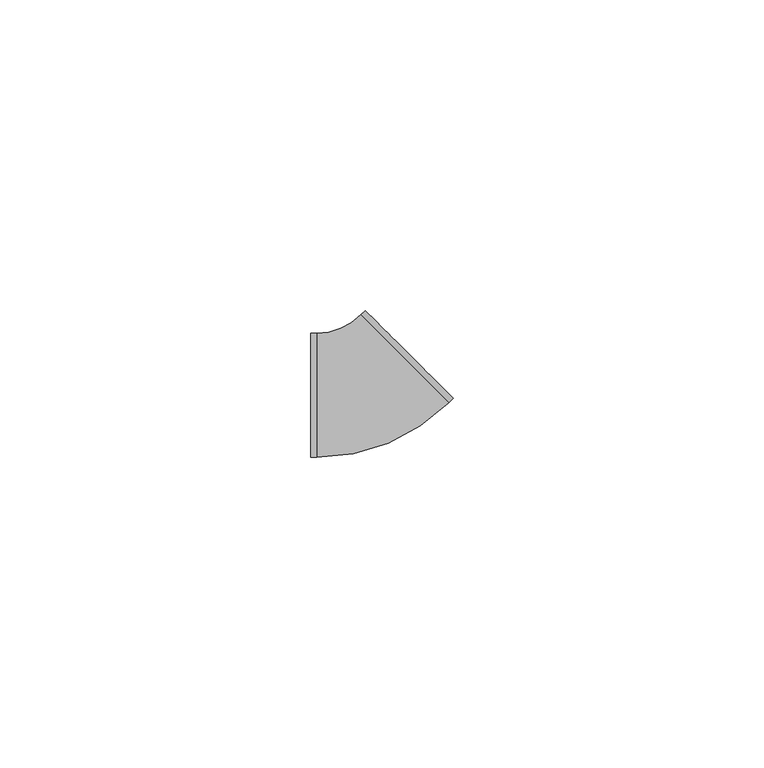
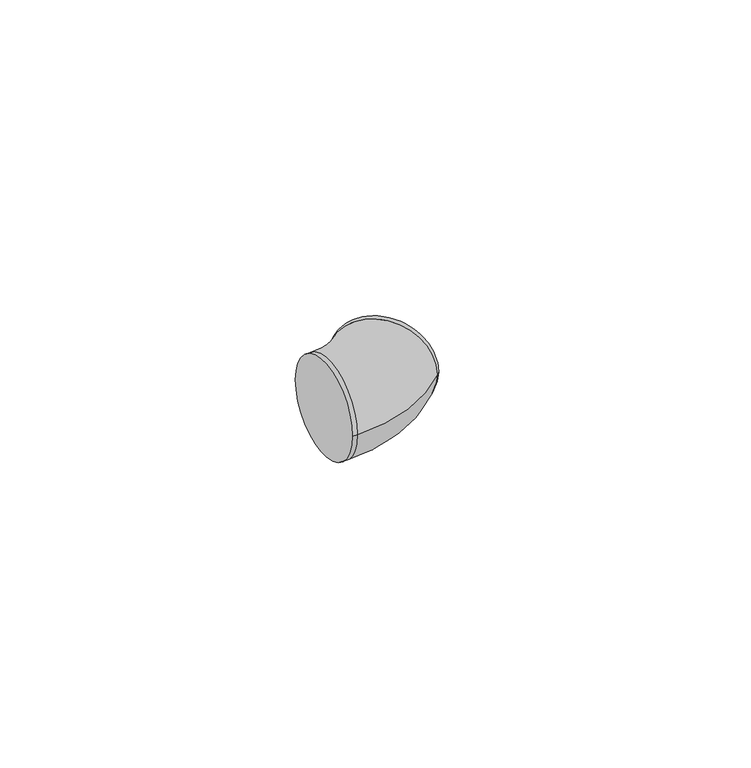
"""IFC4 building model written with IfcOpenShell, lengths in millimetres: cable carrier fitting geometry, ADSK_Поворот_Минимальный размер : Неспецифицируемый."""

import ifcopenshell
import ifcopenshell.guid

model = None  # the IFC model being written
_history = None  # IfcOwnerHistory: only IFC2X3 demands one
_inside = {}  # id of a spatial element -> (the spatial element, [elements in it])
_under = {}  # id of a project, library or spatial element -> (it, [spatial elements below it])
_declared = {}  # id of a project -> (the project, [libraries it declares])
_typed = {}  # id of a type object -> (the type object, [elements of that type])
_made_of = {}  # id of a material, layer set ... -> (it, [elements and type objects made of it])


def new_model(schema):
    """Start an empty IFC model of exactly this schema.

    Asked for "IFC4X3", IfcOpenShell would pick the latest addendum, in which some entities
    have other attributes; the version numbers below select the first issue.
    IFC2X3 requires an IfcOwnerHistory on every rooted entity: one is made here for all.
    """
    global model, _history
    if schema == "IFC4X3":
        model = ifcopenshell.file(schema_version=(4, 3, 0, 0))
    else:
        model = ifcopenshell.file(schema=schema)
    _inside.clear()
    _under.clear()
    _declared.clear()
    _typed.clear()
    _made_of.clear()
    _history = None
    if model.schema == "IFC2X3":
        org = make("IfcOrganization", Name="unknown")
        user = make(
            "IfcPersonAndOrganization",
            ThePerson=make("IfcPerson", FamilyName="unknown"),
            TheOrganization=org,
        )
        app = make(
            "IfcApplication",
            ApplicationDeveloper=org,
            Version="unknown",
            ApplicationFullName="unknown",
            ApplicationIdentifier="unknown",
        )
        _history = make(
            "IfcOwnerHistory",
            OwningUser=user,
            OwningApplication=app,
            ChangeAction="ADDED",
            CreationDate=0,
        )
    return model


def make(cls, **values):
    """One entity of the class cls with the attributes given. An attribute that is None is left unset."""
    return model.create_entity(
        cls, **{name: value for name, value in values.items() if value is not None}
    )


def rooted(cls, **values):
    """An entity with a GlobalId (a new one), such as an element, a storey or a relation."""
    return make(cls, GlobalId=ifcopenshell.guid.new(), OwnerHistory=_history, **values)


def si_unit(unit_type, name, prefix=None):
    """IfcSIUnit, for example si_unit("LENGTHUNIT", "METRE", prefix="MILLI")."""
    return make("IfcSIUnit", UnitType=unit_type, Prefix=prefix, Name=name)


def assignment(units):
    """IfcUnitAssignment: the units of a project."""
    return None if units is None else make("IfcUnitAssignment", Units=units)


def point(xyz):
    """IfcCartesianPoint."""
    return None if xyz is None else make("IfcCartesianPoint", Coordinates=xyz)


def direction(xyz):
    """IfcDirection."""
    return None if xyz is None else make("IfcDirection", DirectionRatios=xyz)


def frame(location, z_axis=None, x_axis=None):
    """IfcAxis2Placement3D, a coordinate frame: its origin and axes. An axis left out is left unset."""
    return make(
        "IfcAxis2Placement3D",
        Location=point(location),
        Axis=direction(z_axis),
        RefDirection=direction(x_axis),
    )


def origin():
    """The frame at (0, 0, 0) with its axes left unset."""
    return frame((0.0, 0.0, 0.0))


def place(relative_to, where):
    """IfcLocalPlacement: puts the frame where relative to a parent placement (None: the world)."""
    return make(
        "IfcLocalPlacement", PlacementRelTo=relative_to, RelativePlacement=where
    )


def context(
    kind, dimensions, precision=None, world=None, true_north=None, identifier=None
):
    """IfcGeometricRepresentationContext, for example the 3D "Model" context."""
    return make(
        "IfcGeometricRepresentationContext",
        ContextIdentifier=identifier,
        ContextType=kind,
        CoordinateSpaceDimension=dimensions,
        Precision=precision,
        WorldCoordinateSystem=world,
        TrueNorth=true_north,
    )


def project(units=None, contexts=None):
    """IfcProject with its units and contexts."""
    return rooted(
        "IfcProject",
        Name="project",
        RepresentationContexts=contexts,
        UnitsInContext=assignment(units),
    )


def spatial(cls, under=None, at=None, **own):
    """A site, building, storey or space (cls), placed at a placement, below another one or the project."""
    s = rooted(cls, ObjectPlacement=at, **own)
    if under is not None:
        _under.setdefault(under.id(), (under, []))[1].append(s)
    return s


def circle_curve(where, radius):
    """IfcCircle in the frame where."""
    return make("IfcCircle", Position=where, Radius=radius)


def ellipse_curve(where, semi_axis1, semi_axis2):
    """IfcEllipse in the frame where."""
    return make(
        "IfcEllipse", Position=where, SemiAxis1=semi_axis1, SemiAxis2=semi_axis2
    )


def trimmed(basis, trim1, trim2, sense, master):
    """IfcTrimmedCurve: the piece of a basis curve between two trims."""
    return make(
        "IfcTrimmedCurve",
        BasisCurve=basis,
        Trim1=trim1,
        Trim2=trim2,
        SenseAgreement=sense,
        MasterRepresentation=master,
    )


def shape(context_of_items, identifier, shape_type, items):
    """IfcShapeRepresentation: the items that make up one representation, for example the "Body"."""
    return make(
        "IfcShapeRepresentation",
        ContextOfItems=context_of_items,
        RepresentationIdentifier=identifier,
        RepresentationType=shape_type,
        Items=items,
    )


def source(mapping_origin, context_of_items, identifier, shape_type, items):
    """IfcRepresentationMap: a shape defined once, which mapped items show again and again."""
    return make(
        "IfcRepresentationMap",
        MappingOrigin=mapping_origin,
        MappedRepresentation=shape(context_of_items, identifier, shape_type, items),
    )


def transform(
    local_origin,
    x_axis=None,
    y_axis=None,
    z_axis=None,
    scale=None,
    scale2=None,
    scale3=None,
    uniform=True,
):
    """IfcCartesianTransformationOperator3D, or its non-uniform kind. x_axis, y_axis, z_axis: its Axis1, 2, 3."""
    if uniform:
        return make(
            "IfcCartesianTransformationOperator3D",
            Axis1=direction(x_axis),
            Axis2=direction(y_axis),
            LocalOrigin=point(local_origin),
            Scale=scale,
            Axis3=direction(z_axis),
        )
    return make(
        "IfcCartesianTransformationOperator3DnonUniform",
        Axis1=direction(x_axis),
        Axis2=direction(y_axis),
        LocalOrigin=point(local_origin),
        Scale=scale,
        Axis3=direction(z_axis),
        Scale2=scale2,
        Scale3=scale3,
    )


def mapped(mapping_source, mapping_target):
    """IfcMappedItem: shows the shape of a source again, moved by a transform."""
    return make(
        "IfcMappedItem", MappingSource=mapping_source, MappingTarget=mapping_target
    )


def made_of(thing, what):
    """Note that an element or type object is made of a material, layer set ...; save() writes the relation."""
    if what is not None:
        _made_of.setdefault(what.id(), (what, []))[1].append(thing)
    return thing


def element(
    cls,
    number,
    at=None,
    inside=None,
    cuts=None,
    type_object=None,
    material=None,
    context=None,
    identifier="Body",
    shape_type=None,
    held_by="IfcProductDefinitionShape",
    body=None,
    shapes=None,
    **own,
):
    """One element of the class cls, such as IfcWall. Its Tag is "e" and its number.

    at: its placement. inside: the storey or other place that contains it. cuts: it is an
    opening in that element (IfcRelVoidsElement). A single representation is given by context,
    identifier, shape_type and body (its items); several are given by shapes. held_by: the class
    of the entity that holds the representations. save() writes the other relations.
    """
    e = rooted(cls, Tag="e%d" % number, ObjectPlacement=at, **own)
    if body is not None:
        shapes = [shape(context, identifier, shape_type, body)]
    if shapes is not None:
        e.Representation = make(held_by, Representations=shapes)
    if inside is not None:
        _inside.setdefault(inside.id(), (inside, []))[1].append(e)
    if cuts is not None:
        rooted(
            "IfcRelVoidsElement", RelatingBuildingElement=cuts, RelatedOpeningElement=e
        )
    if type_object is not None:
        _typed.setdefault(type_object.id(), (type_object, []))[1].append(e)
    return made_of(e, material)


def aggregate(whole, parts):
    """IfcRelAggregates: a whole, such as a stair, and the parts it consists of."""
    return rooted("IfcRelAggregates", RelatingObject=whole, RelatedObjects=parts)


def save(model, path):
    """Write the relations noted so far, then the file.

    IfcRelAggregates (storeys below a building ...), IfcRelContainedInSpatialStructure (elements
    in a storey), IfcRelDefinesByType, IfcRelAssociatesMaterial and IfcRelDeclares: one each for
    every whole, place, type object, material and project.
    """
    for whole, parts in _under.values():
        aggregate(whole, parts)
    for where, things in _inside.values():
        rooted(
            "IfcRelContainedInSpatialStructure",
            RelatedElements=things,
            RelatingStructure=where,
        )
    for kind, things in _typed.values():
        rooted("IfcRelDefinesByType", RelatedObjects=things, RelatingType=kind)
    for what, things in _made_of.values():
        rooted("IfcRelAssociatesMaterial", RelatedObjects=things, RelatingMaterial=what)
    for by, libraries in _declared.values():
        rooted("IfcRelDeclares", RelatingContext=by, RelatedDefinitions=libraries)
    model.write(path)


def plane_surface(at):
    """IfcPlane: the flat surface through the origin of the frame at, square to its z axis."""
    return make("IfcPlane", Position=at)


def cylinder_surface(at, radius):
    """IfcCylindricalSurface: all points at the distance radius from the z axis of the frame at."""
    return make("IfcCylindricalSurface", Position=at, Radius=radius)


def revolved_surface(curve, axis_point, axis_direction):
    """IfcSurfaceOfRevolution: the curve turned about the line through axis_point along axis_direction."""
    return make(
        "IfcSurfaceOfRevolution",
        SweptCurve=make("IfcArbitraryOpenProfileDef", ProfileType="CURVE", Curve=curve),
        AxisPosition=make("IfcAxis1Placement", Location=point(axis_point), Axis=direction(axis_direction)),
    )


def advanced_brep(points, edges, surfaces, faces):
    """IfcAdvancedBrep: a solid bounded by faces that lie on surfaces and meet in shared edges.

    An edge is (start, end): straight between two places in points (the first is 0);
    or (start, end, curve); or (start, end, curve, False) where it runs against its curve.
    A face is (place in surfaces, loops), or (place, loops, False) where it looks against
    its surface's normal. A loop lists edges by number (the first is 1), with a minus sign
    where the edge is run from its end to its start. The first loop is the outer one.
    """
    corners = [point(p) for p in points]
    vertices = [make("IfcVertexPoint", VertexGeometry=c) for c in corners]
    made = []
    for start, end, *more in edges:
        made.append(
            make(
                "IfcEdgeCurve",
                EdgeStart=vertices[start],
                EdgeEnd=vertices[end],
                EdgeGeometry=more[0] if more else make("IfcPolyline", Points=[corners[start], corners[end]]),
                SameSense=more[1] if len(more) > 1 else True,
            )
        )
    hull = []
    for where, loops, *sense in faces:
        bounds = []
        for j, loop in enumerate(loops):
            ring = [make("IfcOrientedEdge", EdgeElement=made[abs(k) - 1], Orientation=k > 0) for k in loop]
            bounds.append(
                make(
                    "IfcFaceOuterBound" if j == 0 else "IfcFaceBound",
                    Bound=make("IfcEdgeLoop", EdgeList=ring),
                    Orientation=True,
                )
            )
        hull.append(make("IfcAdvancedFace", Bounds=bounds, FaceSurface=surfaces[where], SameSense=sense[0] if sense else True))
    return make("IfcAdvancedBrep", Outer=make("IfcClosedShell", CfsFaces=hull))


def cable_carrier_fitting_29dedce4(model_context):
    return source(origin(), model_context, "Body", "AdvancedBrep", [
        advanced_brep(
        [(-9.3059418, -10.0, 0.0), (-9.3059418, 10.0, 0.0), (-8.3059418, -10.0, 0.0), (-8.3059418, 10.0, 0.0), (-1.2218117, 12.9420186, 0.0), (12.9464483, -1.1739443, 0.0), (13.6522464, -0.4655313, 0.0), (-0.5160136, 13.6504316, 0.0)],
        [
            (0, 1, circle_curve(frame((-9.3059418, 0.0, 0.0), z_axis=(-1.0, -4.92260399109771e-12, 0.0), x_axis=(-4.92260399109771e-12, 1.0, 0.0)), 10.0)),
            (1, 0, circle_curve(frame((-9.3059418, 0.0, 0.0), z_axis=(-1.0, -4.92260399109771e-12, 0.0), x_axis=(-4.92260399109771e-12, 1.0, 0.0)), 10.0)),
            (0, 2),
            (2, 3, circle_curve(frame((-8.3059418, 0.0, 0.0), z_axis=(-1.0, -4.92260399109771e-12, 0.0), x_axis=(-4.92260399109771e-12, 1.0, 0.0)), 10.0)),
            (3, 1),
            (3, 2, circle_curve(frame((-8.3059418, 0.0, 0.0), z_axis=(-1.0, -4.92260399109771e-12, 0.0), x_axis=(-4.92260399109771e-12, 1.0, 0.0)), 10.0)),
            (4, 3, circle_curve(frame((-8.3059418, 20.0, 0.0), z_axis=(0.0, 0.0, -1.0), x_axis=(0.0, -1.0, 0.0)), 10.0)),
            (2, 5, circle_curve(frame((-8.3059418, 20.0, 0.0), z_axis=(0.0, 0.0, 1.0), x_axis=(0.0, -1.0, 0.0)), 30.0)),
            (5, 4, circle_curve(frame((5.8623183, 5.8840371, 0.0), z_axis=(-0.7057981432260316, -0.7084130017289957, 0.0), x_axis=(-0.7084130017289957, 0.7057981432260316, 0.0)), 10.0)),
            (4, 5, circle_curve(frame((5.8623183, 5.8840371, 0.0), z_axis=(-0.7057981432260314, -0.7084130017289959, 0.0), x_axis=(-0.7084130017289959, 0.7057981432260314, 0.0)), 10.0)),
            (6, 7, circle_curve(frame((6.5681164, 6.5924501, 0.0), z_axis=(0.7057981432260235, 0.7084130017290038, 0.0), x_axis=(-0.7084130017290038, 0.7057981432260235, 0.0)), 10.0)),
            (7, 6, circle_curve(frame((6.5681164, 6.5924501, 0.0), z_axis=(0.7057981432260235, 0.7084130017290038, 0.0), x_axis=(-0.7084130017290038, 0.7057981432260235, 0.0)), 10.0)),
            (5, 6),
            (7, 4),
        ],
        [
            plane_surface(frame((-9.3059418, 0.0, 0.0), z_axis=(-1.0, -4.92260399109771e-12, 0.0), x_axis=(0.0, 0.0, 1.0))),
            cylinder_surface(frame((-9.3059418, 0.0, 0.0), z_axis=(-1.0, -4.92260399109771e-12, 0.0), x_axis=(-4.92260399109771e-12, 1.0, 0.0)), 10.0),
            revolved_surface(trimmed(ellipse_curve(frame((-8.3059418, 0.0, 0.0), z_axis=(-1.0, 0.0, 0.0), x_axis=(0.0, 1.0, 0.0)), 10.0, 10.0), [point((-8.3059418, -10.0, 0.0))], [point((-8.3059418, 10.0, 0.0))], True, "CARTESIAN"), (-8.3059418, 20.0, 0.0), (0.0, 0.0, 1.0)),
            revolved_surface(trimmed(ellipse_curve(frame((-8.3059418, 0.0, 0.0), z_axis=(-1.0, 0.0, 0.0), x_axis=(0.0, 1.0, 0.0)), 10.0, 10.0), [point((-8.3059418, 10.0, 0.0))], [point((-8.3059418, -10.0, 0.0))], True, "CARTESIAN"), (-8.3059418, 20.0, 0.0), (0.0, 0.0, 1.0)),
            plane_surface(frame((6.5681164, 6.5924501, 0.0), z_axis=(0.7057981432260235, 0.7084130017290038, 0.0), x_axis=(0.0, 0.0, 1.0))),
            cylinder_surface(frame((5.8623183, 5.8840371, 0.0), z_axis=(-0.7057981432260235, -0.7084130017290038, 0.0), x_axis=(-0.7084130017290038, 0.7057981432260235, 0.0)), 10.0),
        ],
        [
            (0, [[1, 2]]),
            (1, [[-1, 3, 4, 5]]),
            (1, [[-2, -5, 6, -3]]),
            (2, [[7, -4, 8, 9]]),
            (3, [[-8, -6, -7, 10]]),
            (4, [[11, 12]]),
            (5, [[-9, 13, -12, 14]]),
            (5, [[-10, -14, -11, -13]]),
        ],
    ),
    ])


if __name__ == "__main__":
    model = new_model("IFC4")
    model_context = context("Model", 3, world=origin())
    ifc_project = project(units=[si_unit("LENGTHUNIT", "METRE", prefix="MILLI")], contexts=[model_context])
    site = spatial("IfcSite", under=ifc_project)
    building = spatial("IfcBuilding", under=site)
    placement = place(None, origin())
    cable_carrier_fitting_shape = cable_carrier_fitting_29dedce4(model_context)
    element("IfcCableCarrierFitting", 1, ObjectType="ADSK_Поворот_Минимальный размер : Неспецифицируемый", at=placement, inside=building, context=model_context, shape_type="MappedRepresentation", body=[
        mapped(cable_carrier_fitting_shape, transform((0.0, 0.0, 0.0), x_axis=(1.0, 0.0, 0.0), y_axis=(0.0, 1.0, 0.0), z_axis=(0.0, 0.0, 1.0))),
    ])
    save(model, "model.ifc")
